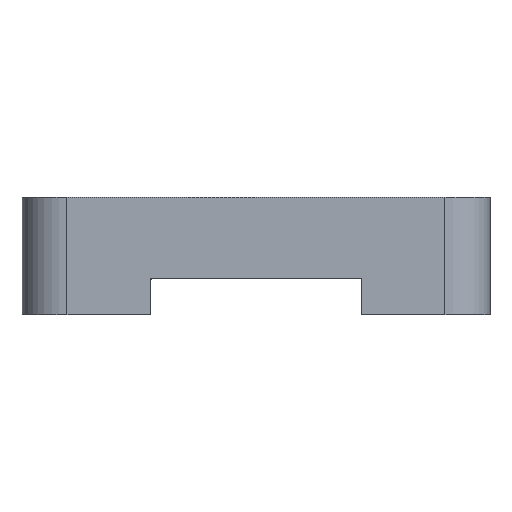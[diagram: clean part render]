
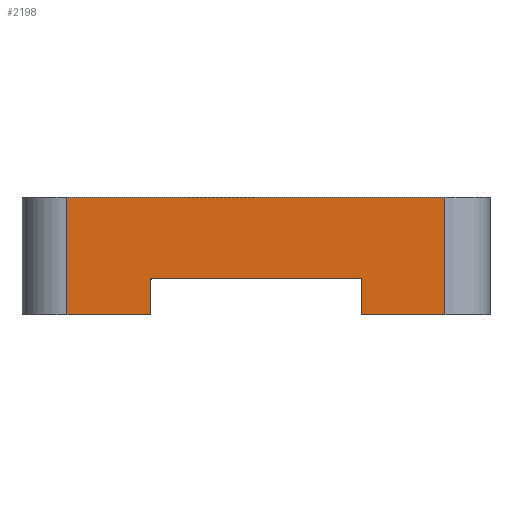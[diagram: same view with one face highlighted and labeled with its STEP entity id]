
A CAD part, left-side view. The second image highlights one B-rep face of the part: STEP entity #2198.
In plain terms, the highlighted planar face has unit normal (-1, 0, 0).
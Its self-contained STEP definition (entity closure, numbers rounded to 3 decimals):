
#98=PLANE('',#2443);
#232=LINE('',#3504,#454);
#270=LINE('',#3600,#492);
#286=LINE('',#3650,#508);
#309=LINE('',#3700,#531);
#310=LINE('',#3704,#532);
#311=LINE('',#3707,#533);
#312=LINE('',#3709,#534);
#313=LINE('',#3710,#535);
#454=VECTOR('',#2838,10.);
#492=VECTOR('',#2932,10.);
#508=VECTOR('',#2980,10.);
#531=VECTOR('',#3025,10.);
#532=VECTOR('',#3030,10.);
#533=VECTOR('',#3033,10.);
#534=VECTOR('',#3034,10.);
#535=VECTOR('',#3035,10.);
#683=FACE_OUTER_BOUND('',#798,.T.);
#798=EDGE_LOOP('',(#1912,#1913,#1914,#1915,#1916,#1917,#1918,#1919));
#1038=VERTEX_POINT('',#3501);
#1039=VERTEX_POINT('',#3503);
#1069=VERTEX_POINT('',#3599);
#1087=VERTEX_POINT('',#3649);
#1103=VERTEX_POINT('',#3698);
#1104=VERTEX_POINT('',#3702);
#1105=VERTEX_POINT('',#3706);
#1106=VERTEX_POINT('',#3708);
#1299=EDGE_CURVE('',#1039,#1038,#232,.T.);
#1349=EDGE_CURVE('',#1069,#1039,#270,.T.);
#1375=EDGE_CURVE('',#1069,#1087,#286,.T.);
#1401=EDGE_CURVE('',#1038,#1103,#309,.T.);
#1403=EDGE_CURVE('',#1104,#1103,#310,.T.);
#1404=EDGE_CURVE('',#1105,#1104,#311,.T.);
#1405=EDGE_CURVE('',#1106,#1105,#312,.T.);
#1406=EDGE_CURVE('',#1087,#1106,#313,.T.);
#1912=ORIENTED_EDGE('',*,*,#1403,.F.);
#1913=ORIENTED_EDGE('',*,*,#1404,.F.);
#1914=ORIENTED_EDGE('',*,*,#1405,.F.);
#1915=ORIENTED_EDGE('',*,*,#1406,.F.);
#1916=ORIENTED_EDGE('',*,*,#1375,.F.);
#1917=ORIENTED_EDGE('',*,*,#1349,.T.);
#1918=ORIENTED_EDGE('',*,*,#1299,.T.);
#1919=ORIENTED_EDGE('',*,*,#1401,.T.);
#2198=ADVANCED_FACE('',(#683),#98,.T.);
#2443=AXIS2_PLACEMENT_3D('',#3705,#3031,#3032);
#2838=DIRECTION('',(0.,1.,0.));
#2932=DIRECTION('',(0.,0.,-1.));
#2980=DIRECTION('',(0.,-1.,0.));
#3025=DIRECTION('',(0.,0.,1.));
#3030=DIRECTION('',(0.,-1.,0.));
#3031=DIRECTION('center_axis',(-1.,0.,0.));
#3032=DIRECTION('ref_axis',(0.,-1.,0.));
#3033=DIRECTION('',(0.,0.,1.));
#3034=DIRECTION('',(0.,1.,0.));
#3035=DIRECTION('',(0.,0.,-1.));
#3501=CARTESIAN_POINT('',(-2.,35.728,9.));
#3503=CARTESIAN_POINT('',(-2.,12.272,9.));
#3504=CARTESIAN_POINT('',(-2.,43.153,9.));
#3599=CARTESIAN_POINT('',(-2.,12.272,13.));
#3600=CARTESIAN_POINT('',(-2.,12.272,4.5));
#3649=CARTESIAN_POINT('',(-2.,3.,13.));
#3650=CARTESIAN_POINT('',(-2.,-2.,13.));
#3698=CARTESIAN_POINT('',(-2.,35.728,13.));
#3700=CARTESIAN_POINT('',(-2.,35.728,4.5));
#3702=CARTESIAN_POINT('',(-2.,45.,13.));
#3704=CARTESIAN_POINT('',(-2.,-2.,13.));
#3705=CARTESIAN_POINT('Origin',(-2.,50.,0.));
#3706=CARTESIAN_POINT('',(-2.,45.,0.));
#3707=CARTESIAN_POINT('',(-2.,45.,0.));
#3708=CARTESIAN_POINT('',(-2.,3.,0.));
#3709=CARTESIAN_POINT('',(-2.,-2.,0.));
#3710=CARTESIAN_POINT('',(-2.,3.,0.));
